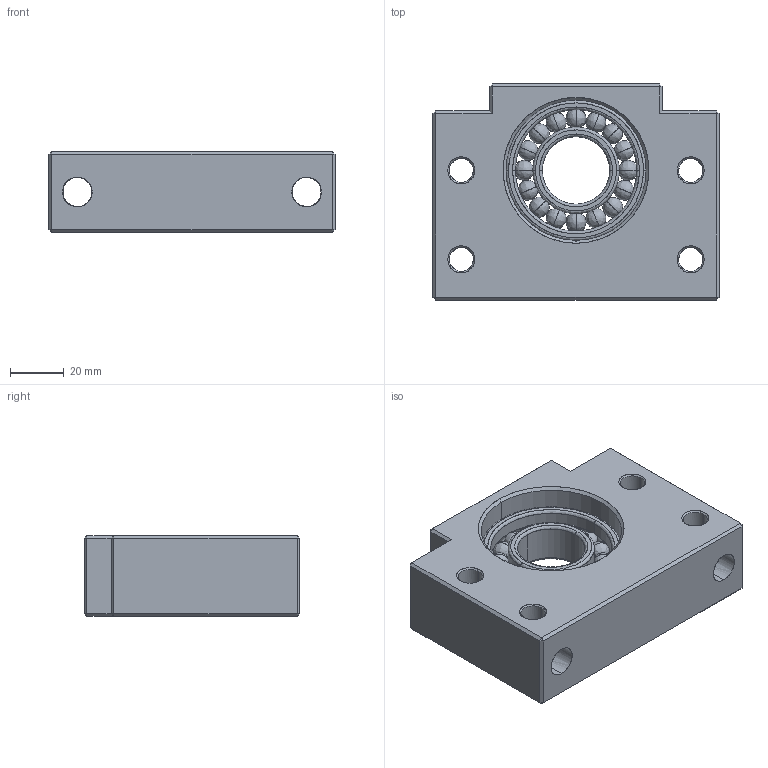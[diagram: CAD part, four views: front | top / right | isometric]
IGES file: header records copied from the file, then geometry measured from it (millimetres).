
Start section: SolidWorks IGES file using analytic representation for surfaces
Global section: file name: Z:\Accessories\_GC_!!!\SYK\Support unit\BF\BF25.IGS; native system: SolidWorks 2015; preprocessor: SolidWorks 2015; author: User; date: 170504.151105; units: millimetre
Bounding box: 106 x 80 x 30 mm (x, y, z)
Surface area: 44701.6 mm2 (no closed solid volume)
Topology: 0 solids, 0 shells, 166 faces, 2388 edges, 2326 vertices
Faces by surface type: bspline 104, revolution 62
